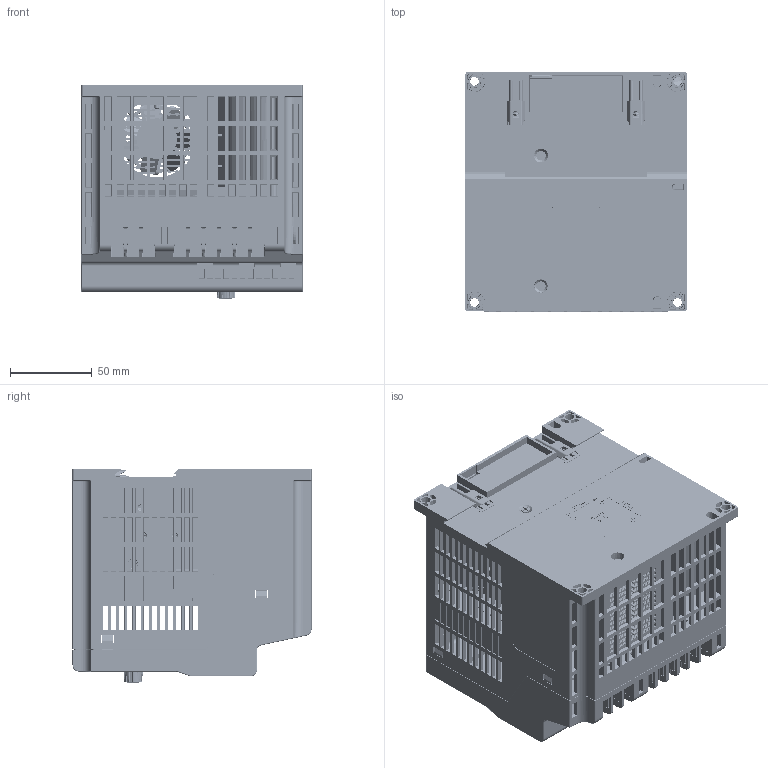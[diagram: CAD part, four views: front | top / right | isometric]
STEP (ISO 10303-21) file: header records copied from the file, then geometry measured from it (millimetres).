
FILE_DESCRIPTION((''),'2;1');
FILE_NAME('SC-600_ASM','2022-04-22T08:51:56',('ZhangJF'),(''),'CREO PARAMETRIC BY PTC INC, 2019010','CREO PARAMETRIC BY PTC INC, 2019010','');
FILE_SCHEMA(('CONFIG_CONTROL_DESIGN','SHAPE_APPEARANCE_LAYERS_GROUPS'));
Products named in the file (17): EL-B-XIAGAI; PCB-DIANRONG; QUDONGBAN-20210112; QUDONGBAN-1-20210112; PCB-QUDONGBAN_ASM; SANREQI-2; SANREQI-1; PINGTOULUOSI; EL-B-SANREQI_ASM; EL-B-SHANGGAI; FENGSHAN-505015; EL-B-FENGSHANJIA; TANHUANG; 20210318-KONGZHIBAN; EL-XUANNIU; KAKOU-210319; SC-600_ASM
Assembly tree (23 placements, depth 3):
  SC-600_ASM
    EL-B-XIAGAI
    PCB-DIANRONG
    PCB-QUDONGBAN_ASM
      QUDONGBAN-20210112
      QUDONGBAN-1-20210112
    EL-B-SANREQI_ASM
      SANREQI-2
      SANREQI-1
      PINGTOULUOSI  x4
    EL-B-SHANGGAI
    FENGSHAN-505015
    EL-B-FENGSHANJIA
    TANHUANG  x2
    20210318-KONGZHIBAN
    EL-XUANNIU
    KAKOU-210319  x2
    PINGTOULUOSI  x2
Bounding box: 135.5 x 146.5 x 130.85 mm (x, y, z)
Volume: 662729.8 mm3; surface area: 554669.9 mm2
Topology: 112 solids, 112 shells, 11151 faces, 30759 edges, 20205 vertices
Faces by surface type: plane 7267, cylinder 2960, cone 419, torus 252, bspline 202, sphere 43, revolution 5, extrusion 3
Entity records: 451604 total; most frequent: CARTESIAN_POINT 77895, ORIENTED_EDGE 60634, DIRECTION 56921, EDGE_CURVE 30317, VECTOR 22126, LINE 22123, PRESENTATION_STYLE_ASSIGNMENT 20696, STYLED_ITEM 20688
